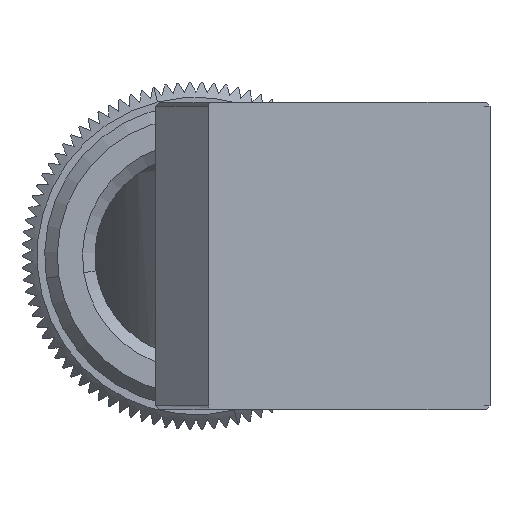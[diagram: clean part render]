
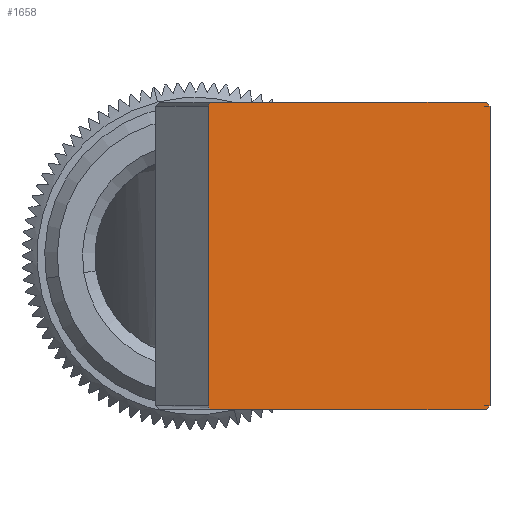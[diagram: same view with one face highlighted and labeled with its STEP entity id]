
A CAD part, left-side view. The second image highlights one B-rep face of the part: STEP entity #1658.
In plain terms, the highlighted planar face has unit normal (-0.998, -0.07, 0).
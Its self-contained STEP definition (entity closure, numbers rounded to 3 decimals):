
#142 = DIRECTION ( 'NONE',  ( 0.07, -0.998, 0. ) ) ;
#216 = LINE ( 'NONE', #8402, #14046 ) ;
#326 = DIRECTION ( 'NONE',  ( 0.07, -0.998, 0. ) ) ;
#607 = CIRCLE ( 'NONE', #9381, 0.15 ) ;
#1136 = DIRECTION ( 'NONE',  ( -0.998, -0.07, 0. ) ) ;
#1222 = ORIENTED_EDGE ( 'NONE', *, *, #3159, .T. ) ;
#1538 = DIRECTION ( 'NONE',  ( -0.998, -0.07, 0. ) ) ;
#1658 = ADVANCED_FACE ( 'NONE', ( #8879 ), #11094, .T. ) ;
#2018 = EDGE_CURVE ( 'NONE', #13349, #5196, #216, .T. ) ;
#2098 = VERTEX_POINT ( 'NONE', #7339 ) ;
#2884 = ORIENTED_EDGE ( 'NONE', *, *, #10547, .F. ) ;
#3159 = EDGE_CURVE ( 'NONE', #5196, #5556, #4320, .T. ) ;
#3264 = CARTESIAN_POINT ( 'NONE',  ( 0.838, -16.173, -0.062 ) ) ;
#3295 = DIRECTION ( 'NONE',  ( 0., 0., -1. ) ) ;
#3328 = DIRECTION ( 'NONE',  ( 0., 0., -1. ) ) ;
#3370 = CARTESIAN_POINT ( 'NONE',  ( 0.828, -16.022, -12.2 ) ) ;
#3467 = CARTESIAN_POINT ( 'NONE',  ( 0.828, -16.022, 0. ) ) ;
#3705 = CARTESIAN_POINT ( 'NONE',  ( 0.447, -10.586, 0. ) ) ;
#4157 = EDGE_CURVE ( 'NONE', #5866, #10656, #10574, .T. ) ;
#4320 =( BOUNDED_CURVE ( )  B_SPLINE_CURVE ( 3, ( #3370, #11830, #13138, #9585 ),
 .UNSPECIFIED., .F., .F. ) 
 B_SPLINE_CURVE_WITH_KNOTS ( ( 4, 4 ),
 ( 4.712, 6.283 ),
 .UNSPECIFIED. ) 
 CURVE ( )  GEOMETRIC_REPRESENTATION_ITEM ( )  RATIONAL_B_SPLINE_CURVE ( ( 1., 0.805, 0.805, 1. ) ) 
 REPRESENTATION_ITEM ( '' )  );
#4561 = VERTEX_POINT ( 'NONE', #7450 ) ;
#4681 = DIRECTION ( 'NONE',  ( -0.07, 0.998, 0. ) ) ;
#4767 = CARTESIAN_POINT ( 'NONE',  ( 0.057, -5., -12.05 ) ) ;
#5196 = VERTEX_POINT ( 'NONE', #7284 ) ;
#5556 = VERTEX_POINT ( 'NONE', #8312 ) ;
#5866 = VERTEX_POINT ( 'NONE', #8518 ) ;
#6121 = CARTESIAN_POINT ( 'NONE',  ( 0.834, -16.11, 0. ) ) ;
#6696 = ORIENTED_EDGE ( 'NONE', *, *, #13141, .T. ) ;
#6863 = CARTESIAN_POINT ( 'NONE',  ( 0.838, -16.173, 0. ) ) ;
#6892 = VECTOR ( 'NONE', #4681, 1000. ) ;
#7086 = CARTESIAN_POINT ( 'NONE',  ( 0.447, -10.586, 0. ) ) ;
#7183 = AXIS2_PLACEMENT_3D ( 'NONE', #3705, #14706, #142 ) ;
#7284 = CARTESIAN_POINT ( 'NONE',  ( 0.828, -16.022, -12.2 ) ) ;
#7339 = CARTESIAN_POINT ( 'NONE',  ( 0.067, -5.15, 0. ) ) ;
#7450 = CARTESIAN_POINT ( 'NONE',  ( 0.828, -16.022, 0. ) ) ;
#7603 = CARTESIAN_POINT ( 'NONE',  ( 0.067, -5.15, -12.05 ) ) ;
#7988 = CIRCLE ( 'NONE', #9272, 0.15 ) ;
#8184 = LINE ( 'NONE', #6863, #8762 ) ;
#8312 = CARTESIAN_POINT ( 'NONE',  ( 0.838, -16.173, -12.05 ) ) ;
#8402 = CARTESIAN_POINT ( 'NONE',  ( 0.447, -10.586, -12.2 ) ) ;
#8422 = CARTESIAN_POINT ( 'NONE',  ( 0.067, -5.15, -0.15 ) ) ;
#8498 = CARTESIAN_POINT ( 'NONE',  ( 0.067, -5.15, -12.2 ) ) ;
#8518 = CARTESIAN_POINT ( 'NONE',  ( 0.057, -5., -0.15 ) ) ;
#8557 = ORIENTED_EDGE ( 'NONE', *, *, #2018, .T. ) ;
#8762 = VECTOR ( 'NONE', #3295, 1000. ) ;
#8879 = FACE_OUTER_BOUND ( 'NONE', #11199, .T. ) ;
#9272 = AXIS2_PLACEMENT_3D ( 'NONE', #8422, #1136, #9636 ) ;
#9381 = AXIS2_PLACEMENT_3D ( 'NONE', #7603, #1538, #326 ) ;
#9585 = CARTESIAN_POINT ( 'NONE',  ( 0.838, -16.173, -12.05 ) ) ;
#9636 = DIRECTION ( 'NONE',  ( 0.07, -0.998, 0. ) ) ;
#9713 = ORIENTED_EDGE ( 'NONE', *, *, #13877, .T. ) ;
#9951 = EDGE_CURVE ( 'NONE', #10656, #13349, #607, .T. ) ;
#10117 = LINE ( 'NONE', #7086, #6892 ) ;
#10316 = CARTESIAN_POINT ( 'NONE',  ( 0.838, -16.173, -0.15 ) ) ;
#10438 = VERTEX_POINT ( 'NONE', #10316 ) ;
#10530 = CARTESIAN_POINT ( 'NONE',  ( 0.838, -16.173, -0.15 ) ) ;
#10547 = EDGE_CURVE ( 'NONE', #10438, #5556, #8184, .T. ) ;
#10574 = LINE ( 'NONE', #10650, #13776 ) ;
#10650 = CARTESIAN_POINT ( 'NONE',  ( 0.057, -5., 0. ) ) ;
#10656 = VERTEX_POINT ( 'NONE', #4767 ) ;
#10686 = ORIENTED_EDGE ( 'NONE', *, *, #10893, .T. ) ;
#10767 = DIRECTION ( 'NONE',  ( 0.07, -0.998, 0. ) ) ;
#10893 = EDGE_CURVE ( 'NONE', #2098, #5866, #7988, .T. ) ;
#11094 = PLANE ( 'NONE',  #7183 ) ;
#11199 = EDGE_LOOP ( 'NONE', ( #6696, #10686, #11223, #12056, #8557, #1222, #2884, #9713 ) ) ;
#11223 = ORIENTED_EDGE ( 'NONE', *, *, #4157, .T. ) ;
#11830 = CARTESIAN_POINT ( 'NONE',  ( 0.834, -16.11, -12.2 ) ) ;
#12056 = ORIENTED_EDGE ( 'NONE', *, *, #9951, .T. ) ;
#13138 = CARTESIAN_POINT ( 'NONE',  ( 0.838, -16.173, -12.138 ) ) ;
#13141 = EDGE_CURVE ( 'NONE', #4561, #2098, #10117, .T. ) ;
#13349 = VERTEX_POINT ( 'NONE', #8498 ) ;
#13776 = VECTOR ( 'NONE', #3328, 1000. ) ;
#13877 = EDGE_CURVE ( 'NONE', #10438, #4561, #13922, .T. ) ;
#13922 =( BOUNDED_CURVE ( )  B_SPLINE_CURVE ( 3, ( #10530, #3264, #6121, #3467 ),
 .UNSPECIFIED., .F., .F. ) 
 B_SPLINE_CURVE_WITH_KNOTS ( ( 4, 4 ),
 ( 0., 1.571 ),
 .UNSPECIFIED. ) 
 CURVE ( )  GEOMETRIC_REPRESENTATION_ITEM ( )  RATIONAL_B_SPLINE_CURVE ( ( 1., 0.805, 0.805, 1. ) ) 
 REPRESENTATION_ITEM ( '' )  );
#14046 = VECTOR ( 'NONE', #10767, 1000. ) ;
#14706 = DIRECTION ( 'NONE',  ( -0.998, -0.07, 0. ) ) ;
